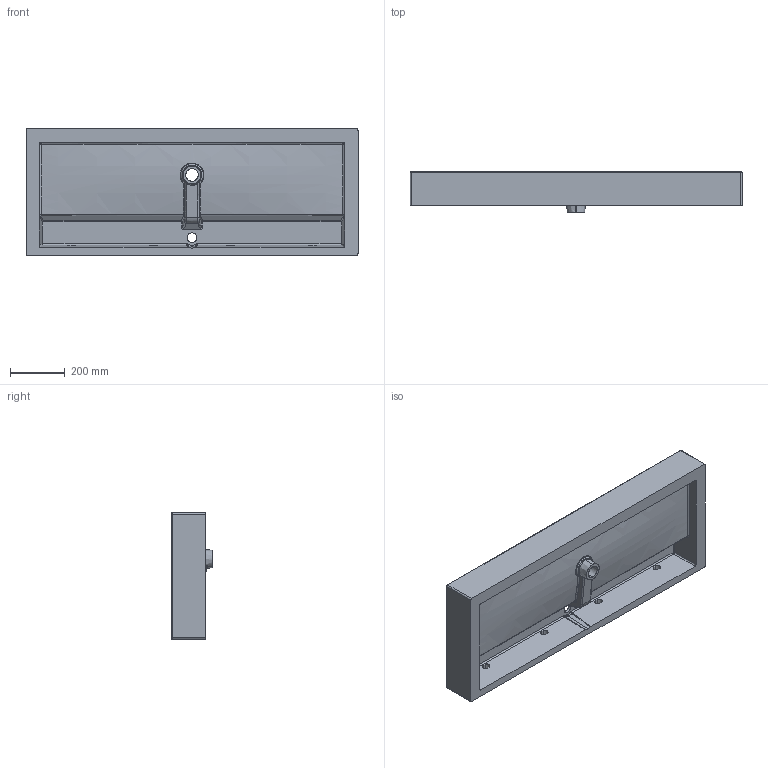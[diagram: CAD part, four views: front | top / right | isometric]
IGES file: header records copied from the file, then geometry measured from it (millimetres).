
Start section: SolidWorks IGES file using analytic representation for surfaces
Global section: file name: \\vmware-host\Shared Folders\Documenti\Lavoro\modifiche Tecla\3D-modifiche\TWENTY 121\PROJECT2017 120.IGS; native system: SolidWorks 2017; preprocessor: SolidWorks 2017; author: silvia; date: 171109.163658; units: millimetre
Bounding box: 1210 x 150 x 460 mm (x, y, z)
Surface area: 1956836.5 mm2 (no closed solid volume)
Topology: 0 solids, 0 shells, 173 faces, 2265 edges, 2257 vertices
Faces by surface type: bspline 89, revolution 84
